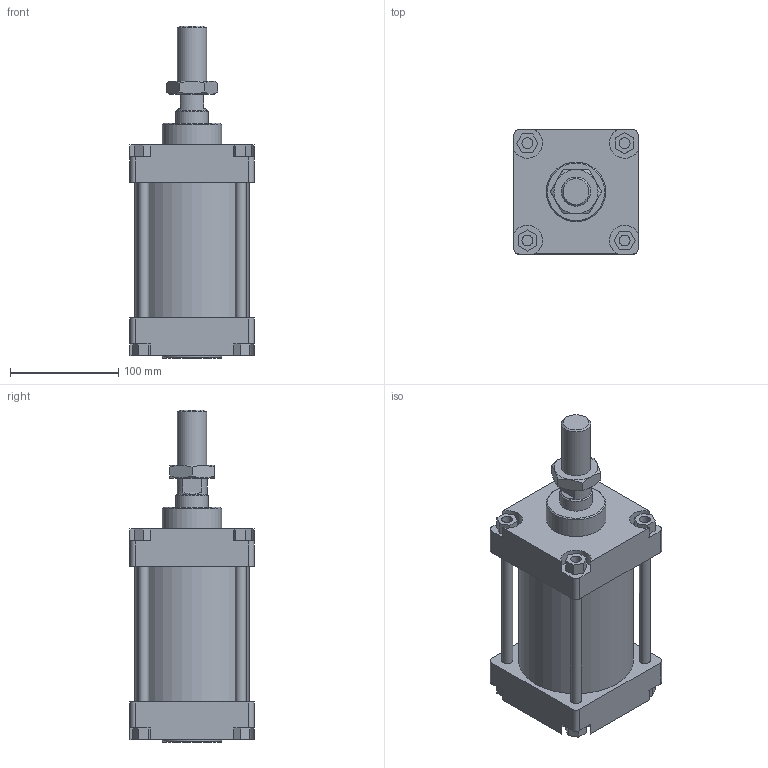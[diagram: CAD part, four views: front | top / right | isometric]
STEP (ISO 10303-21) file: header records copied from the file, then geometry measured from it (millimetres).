
FILE_DESCRIPTION(/* description */ (''),/* implementation_level */ '2;1');
FILE_NAME(/* name */ 'I:\Area Tecnica\Disegni\VARIE-3D\Componenti\CSP\Ø100\130#_100_####_###\1303_100_0050_01A.stp',/* time_stamp */ '2016-11-24T14:03:56+01:00',/* author */ ('Maniean1'),/* organization */ ('Pneumax S.p.A.'),/* preprocessor_version */ 'ST-DEVELOPER v15.2',/* originating_system */ 'Autodesk Inventor 2014',/* authorisation */ '');
FILE_SCHEMA (('AUTOMOTIVE_DESIGN { 1 0 10303 214 3 1 1 }'));
Length unit declared in the file: millimetre
Products named in the file (6): C_130#_100_0050; Testata anteriore_100; Testata posteriore_100; S_1303_100_0050_01A; 1300_100_18F; 1303_100_0050_01A
Bounding box: 115 x 115 x 307 mm (x, y, z)
Volume: 1734449.6 mm3; surface area: 272258.8 mm2
Topology: 9 solids, 9 shells, 162 faces, 380 edges, 249 vertices
Faces by surface type: plane 105, cylinder 42, cone 15
Full cylindrical faces by diameter (mm): 10 x12, 19 x2, 21.8 x1, 24.835 x1, 27 x1, 28 x1, 30 x3, 55 x2, 100 x2, 106 x1
Entity records: 4530 total; most frequent: CARTESIAN_POINT 785, DIRECTION 764, ORIENTED_EDGE 672, EDGE_CURVE 336, AXIS2_PLACEMENT_3D 271, VERTEX_POINT 244, EDGE_LOOP 236, LINE 222
